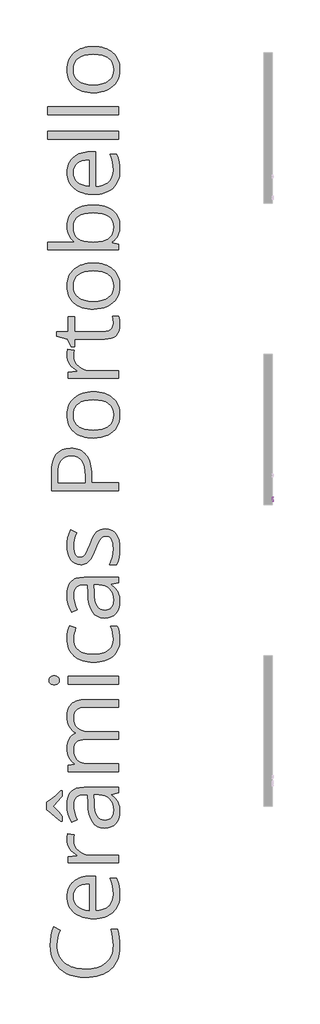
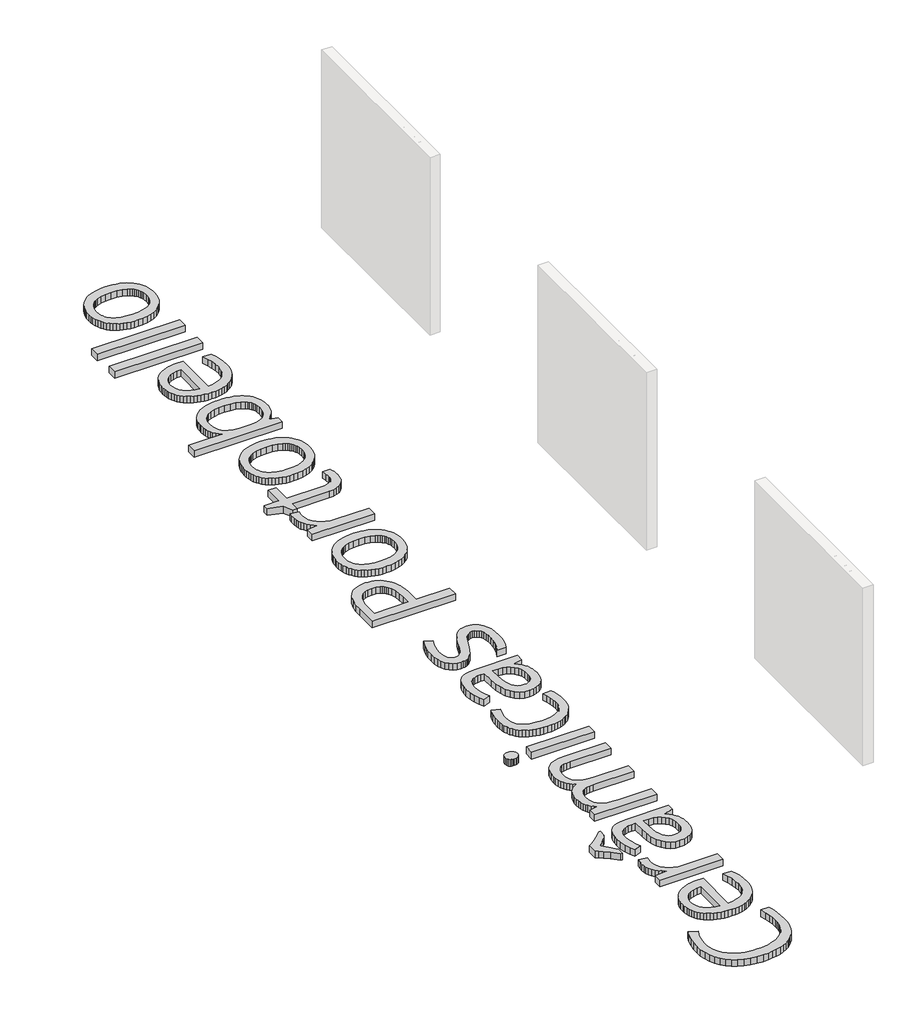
# One storey, part 2 of 8: 2 proxies.
"""IFC4 building model written with IfcOpenShell, lengths in millimetres."""

from ifc_helpers import new_model, si_unit, frame, origin, origin_with_axes, place, context, project, spatial, polyline, outline, extrude, element, save

model = new_model("IFC4")

# Units and contexts
model_context = context("Model", 3, world=origin())
ifc_project = project(units=[si_unit("LENGTHUNIT", "METRE", prefix="MILLI")], contexts=[model_context])

# Site, building, storey
site = spatial("IfcSite", under=ifc_project)
building = spatial("IfcBuilding", under=site)
storey = spatial("IfcBuildingStorey", under=building, Name="PORTOBELLO - SHOWROOM", Elevation=0.0)

# Proxies
placement = place(None, origin())
element("IfcBuildingElementProxy", 1, Name="10mm Arial", ObjectType="10mm Arial", at=placement, inside=storey, context=model_context, shape_type="SweptSolid", body=[
    extrude(outline(polyline([(-3694.2781927, 2584.5399034), (-3681.721154, 2581.3025418), (-3687.5152954, 2566.6700355), (-3696.608112, 2555.9799978), (-3708.5520141, 2549.4408954), (-3722.899412, 2547.2611945), (-3737.4644733, 2548.9105322), (-3749.0312964, 2553.858545), (-3757.8972524, 2561.9335548), (-3764.3597128, 2572.9638833), (-3769.6204253, 2599.8192689), (-3768.133569, 2614.4671037), (-3763.6729998, 2627.116113), (-3756.4717097, 2637.3646922), (-3746.7626907, 2644.8112369), (-3735.2479843, 2649.3453825), (-3722.6296318, 2650.8567644), (-3708.8616482, 2648.9008584), (-3697.4787661, 2643.0331406), (-3688.8366049, 2633.6153615), (-3683.2907838, 2621.0092718), (-3695.8478226, 2618.0171649), (-3706.1485184, 2633.455946), (-3723.1201412, 2638.2997256), (-3742.7650397, 2632.9286485), (-3753.8628132, 2618.5076743), (-3757.0633866, 2599.8437944), (-3753.274202, 2578.2123331), (-3741.4774527, 2564.3922328), (-3724.1502107, 2559.8182333), (-3713.6686396, 2561.3756004), (-3704.9345079, 2566.0477018), (-3698.3402231, 2573.7854864), (-3694.2781927, 2584.5399034)])), frame((14314.625413, 0.0, 0.0), z_axis=(1.0, 0.0, 0.0), x_axis=(0.0, 1.0, 0.0)), (0.0, 0.0, 1.0), 20.0),
    extrude(outline(polyline([(-3669.1641152, 2585.7171258), (-3666.4479198, 2603.5042202), (-3658.2993336, 2616.0060767), (-3648.2316297, 2622.1313119), (-3636.177363, 2624.173057), (-3622.9857278, 2621.6867878), (-3612.4489743, 2614.2279804), (-3605.5419898, 2602.3852458), (-3603.2396617, 2586.7471954), (-3607.3108891, 2564.4044955), (-3619.1689521, 2551.7616176), (-3636.177363, 2547.2611945), (-3649.5284137, 2549.7382666), (-3660.0529045, 2557.1694829), (-3666.8863125, 2569.2605378), (-3669.1641152, 2585.7171258)]), holes=[polyline([(-3656.6070764, 2585.7416512), (-3655.1539425, 2574.3771633), (-3650.7945409, 2566.2806937), (-3644.2339787, 2561.4338484), (-3636.177363, 2559.8182333), (-3628.1575355, 2561.4430455), (-3621.609236, 2566.3174819), (-3617.2498343, 2574.5212504), (-3615.7967004, 2586.1340587), (-3617.2590314, 2597.1674529), (-3621.6460242, 2605.1535578), (-3628.2035207, 2610.0004031), (-3636.177363, 2611.6160182), (-3644.2339787, 2610.0065345), (-3650.7945409, 2605.1780833), (-3655.1539425, 2597.1000078), (-3656.6070764, 2585.7416512)])]), frame((14314.625413, 0.0, 0.0), z_axis=(1.0, 0.0, 0.0), x_axis=(0.0, 1.0, 0.0)), (0.0, 0.0, 1.0), 20.0),
    extrude(outline(polyline([(-3585.9737334, 2548.8308244), (-3585.9737334, 2610.0463884), (-3596.9611423, 2610.0463884), (-3596.9611423, 2622.6034272), (-3585.9737334, 2622.6034272), (-3585.9737334, 2630.0346435), (-3584.6493582, 2640.5070176), (-3578.223686, 2647.9872848), (-3565.5685454, 2650.8567644), (-3554.1151526, 2649.4833383), (-3555.9545625, 2637.7111144), (-3563.1895751, 2638.2997256), (-3571.099038, 2636.215061), (-3573.4166946, 2628.4404881), (-3573.4166946, 2622.6034272), (-3559.290026, 2622.6034272), (-3559.290026, 2610.0463884), (-3573.4166946, 2610.0463884), (-3573.4166946, 2548.8308244), (-3585.9737334, 2548.8308244)])), frame((14314.625413, 0.0, 0.0), z_axis=(1.0, 0.0, 0.0), x_axis=(0.0, 1.0, 0.0)), (0.0, 0.0, 1.0), 20.0),
    extrude(outline(polyline([(-3545.1633574, 2548.8308244), (-3545.1633574, 2610.0463884), (-3556.1507663, 2610.0463884), (-3556.1507663, 2622.6034272), (-3545.1633574, 2622.6034272), (-3545.1633574, 2630.0346435), (-3543.8389822, 2640.5070176), (-3537.41331, 2647.9872848), (-3524.7581694, 2650.8567644), (-3513.3047766, 2649.4833383), (-3515.1441866, 2637.7111144), (-3522.3791991, 2638.2997256), (-3530.288662, 2636.215061), (-3532.6063186, 2628.4404881), (-3532.6063186, 2622.6034272), (-3518.47965, 2622.6034272), (-3518.47965, 2610.0463884), (-3532.6063186, 2610.0463884), (-3532.6063186, 2548.8308244), (-3545.1633574, 2548.8308244)])), frame((14314.625413, 0.0, 0.0), z_axis=(1.0, 0.0, 0.0), x_axis=(0.0, 1.0, 0.0)), (0.0, 0.0, 1.0), 20.0),
    extrude(outline(polyline([(-3455.8416089, 2570.8056422), (-3443.5298248, 2569.2360124), (-3447.9658685, 2559.9592547), (-3455.0445313, 2553.0246791), (-3464.6063975, 2548.7020657), (-3476.4920516, 2547.2611945), (-3491.2257255, 2549.7474637), (-3502.5626223, 2557.2062711), (-3509.7915035, 2569.1532389), (-3512.2011306, 2585.1039891), (-3509.7669781, 2601.5912339), (-3502.4645205, 2613.9214121), (-3491.2809078, 2621.6101458), (-3477.2032901, 2624.173057), (-3463.5640651, 2621.6162771), (-3452.665561, 2613.9459375), (-3445.5194533, 2601.6402848), (-3443.1374174, 2585.1775655), (-3443.2109938, 2581.7930512), (-3499.6440918, 2581.7930512), (-3497.4705224, 2572.3936662), (-3492.421342, 2565.483616), (-3485.1342128, 2561.234579), (-3476.2467969, 2559.8182333), (-3463.9350128, 2562.4424582), (-3455.8416089, 2570.8056422)]), holes=[polyline([(-3499.6440918, 2594.3500899), (-3455.6944561, 2594.3500899), (-3460.7221767, 2605.7299063), (-3468.0430284, 2610.1444902), (-3477.252341, 2611.6160182), (-3492.7156476, 2606.9193914), (-3497.580887, 2601.4287526), (-3499.6440918, 2594.3500899)])]), frame((14314.625413, 0.0, 0.0), z_axis=(1.0, 0.0, 0.0), x_axis=(0.0, 1.0, 0.0)), (0.0, 0.0, 1.0), 20.0),
    extrude(outline(polyline([(-3378.9297465, 2570.8056422), (-3366.6179624, 2569.2360124), (-3371.0540061, 2559.9592547), (-3378.1326688, 2553.0246791), (-3387.694535, 2548.7020657), (-3399.5801891, 2547.2611945), (-3414.313863, 2549.7474637), (-3425.6507599, 2557.2062711), (-3432.8796411, 2569.1532389), (-3435.2892681, 2585.1039891), (-3432.8551156, 2601.5912339), (-3425.552658, 2613.9214121), (-3414.3690453, 2621.6101458), (-3400.2914277, 2624.173057), (-3386.6522027, 2621.6162771), (-3375.7536986, 2613.9459375), (-3368.6075908, 2601.6402848), (-3366.2255549, 2585.1775655), (-3366.2991313, 2581.7930512), (-3422.7322294, 2581.7930512), (-3420.5586599, 2572.3936662), (-3415.5094795, 2565.483616), (-3408.2223503, 2561.234579), (-3399.3349345, 2559.8182333), (-3387.0231504, 2562.4424582), (-3378.9297465, 2570.8056422)]), holes=[polyline([(-3422.7322294, 2594.3500899), (-3378.7825937, 2594.3500899), (-3383.8103143, 2605.7299063), (-3391.131166, 2610.1444902), (-3400.3404786, 2611.6160182), (-3415.8037851, 2606.9193914), (-3420.6690245, 2601.4287526), (-3422.7322294, 2594.3500899)])]), frame((14314.625413, 0.0, 0.0), z_axis=(1.0, 0.0, 0.0), x_axis=(0.0, 1.0, 0.0)), (0.0, 0.0, 1.0), 20.0),
])
element("IfcBuildingElementProxy", 2, Name="1200mm OpenSans", ObjectType="1200mm OpenSans", at=placement, inside=storey, context=model_context, shape_type="SweptSolid", body=[
    extrude(outline(polyline([(10452.5693302, -11711.6578887), (10454.6903774, -11759.8419991), (10461.0535193, -11805.42339), (10471.6587558, -11848.4020616), (10486.5060869, -11888.7780137), (10505.5955126, -11926.5512465), (10528.9270329, -11961.7217599), (10556.5006478, -11994.2895538), (10588.3163572, -12024.2546284), (10623.8220693, -12051.1268611), (10662.465692, -12074.4161295), (10704.2472253, -12094.1224334), (10749.1666692, -12110.2457731), (10797.2240237, -12122.7861483), (10848.4192889, -12131.7435592), (10902.7524646, -12137.1180058), (10960.223551, -12138.9094879), (11019.1650048, -12137.1827921), (11074.664334, -12132.0027044), (11126.7215387, -12123.3692251), (11175.3366188, -12111.2823539), (11220.5095743, -12095.7420911), (11262.2404053, -12076.7484364), (11300.5291117, -12054.3013901), (11335.3756936, -12028.4009519), (11366.4308682, -11999.3062673), (11393.3453528, -11967.2764813), (11416.1191475, -11932.3115941), (11434.7522522, -11894.4116055), (11449.244667, -11853.5765156), (11459.5963919, -11809.8063244), (11465.8074268, -11763.1010319), (11467.8777718, -11713.4606381), (11465.0609759, -11648.3588517), (11456.6105883, -11578.8853981), (11442.5266089, -11505.0402773), (11422.8090377, -11426.8234893), (11539.6271965, -11426.8234893), (11558.7138054, -11492.8491847), (11572.3470974, -11566.1760151), (11580.5270727, -11646.8039804), (11583.2537311, -11734.7330806), (11580.715798, -11799.1813703), (11573.1019987, -11859.8438864), (11560.4123333, -11916.7206289), (11542.6468017, -11969.8115976), (11519.8054039, -12019.1167927), (11491.8881399, -12064.6362142), (11458.8950097, -12106.3698619), (11420.8260134, -12144.317736), (11378.0811359, -12178.1192866), (11331.0603623, -12207.4139638), (11279.7636925, -12232.2017675), (11224.1911266, -12252.4826979), (11164.3426645, -12268.2567548), (11100.2183063, -12279.5239383), (11031.8180519, -12286.2842484), (10959.1419014, -12288.5376851), (10868.3058678, -12284.1998195), (10783.2837009, -12271.1862225), (10704.0754008, -12249.4968942), (10630.6809673, -12219.1318346), (10564.238386, -12180.5755326), (10505.8856426, -12134.3124771), (10455.6227369, -12080.342668), (10413.449669, -12018.6661054), (10380.0875385, -11950.2404998), (10356.2574454, -11876.023562), (10341.9593895, -11796.0152918), (10337.1933709, -11710.2156892), (10341.1819538, -11618.726159), (10353.1477027, -11533.1857017), (10373.0906176, -11453.5943173), (10401.0106983, -11379.9520058), (10516.7472075, -11439.0821849), (10488.6693862, -11507.2261109), (10468.6137995, -11575.3700368), (10456.5804475, -11643.5139628), (10452.5693302, -11711.6578887)])), origin_with_axes(), (0.0, 0.0, 1.0), 100.0),
    extrude(outline(polyline([(11583.2537311, -10803.7933092), (11581.3270427, -10852.4168397), (11575.5469776, -10898.4151164), (11565.9135356, -10941.7881394), (11552.426717, -10982.5359086), (11535.0865215, -11020.658424), (11513.8929493, -11056.1556857), (11488.8460003, -11089.0276936), (11459.9456746, -11119.2744478), (11427.6257587, -11146.4001921), (11392.3200391, -11169.9091706), (11354.0285159, -11189.8013831), (11312.7511891, -11206.0768297), (11268.4880586, -11218.7355104), (11221.2391245, -11227.7774251), (11171.0043867, -11233.202574), (11117.7838454, -11235.010957), (11064.0365632, -11233.3321466), (11013.1229776, -11228.2957156), (10965.0430887, -11219.9016639), (10919.7968965, -11208.1499914), (10877.3844009, -11193.0406983), (10837.805602, -11174.5737845), (10801.0604997, -11152.7492501), (10767.1490941, -11127.5670949), (10736.6854467, -11099.5568767), (10710.2836189, -11069.248153), (10687.9436107, -11036.6409239), (10669.6654223, -11001.7351893), (10655.4490535, -10964.5309493), (10645.2945043, -10925.0282039), (10639.2017748, -10883.226953), (10637.170865, -10839.1271967), (10638.9679808, -10797.7822668), (10644.3593281, -10758.656972), (10653.3449069, -10721.7513123), (10665.9247173, -10687.0652879), (10682.0987593, -10654.5988985), (10701.8670328, -10624.3521444), (10725.2295378, -10596.3250254), (10752.1862744, -10570.5175415), (10782.0893795, -10547.3634794), (10814.29099, -10527.2966255), (10848.7911059, -10510.3169799), (10885.5897273, -10496.4245426), (10924.6868541, -10485.6193137), (10966.0824864, -10477.9012929), (11009.7766241, -10473.2704805), (11055.7692673, -10471.7268764), (11144.8250858, -10471.7268764), (11144.8250858, -11093.314857), (11219.368772, -11086.8136921), (11284.3578866, -11071.276246), (11339.7924295, -11046.7025187), (11363.9267366, -11031.0270497), (11385.6724008, -11013.0925103), (11404.9392846, -10993.0622748), (11421.6372506, -10971.0997173), (11447.3264291, -10921.3776364), (11462.7399361, -10863.9262676), (11467.8777718, -10798.7456109), (11464.0694638, -10726.117346), (11452.6445397, -10653.8946996), (11433.6029995, -10582.0776718), (11406.9448433, -10510.6662626), (11526.6474011, -10510.6662626), (11552.6520606, -10581.1537627), (11570.0936607, -10647.6752143), (11579.9637135, -10718.9739516), (11583.2537311, -10803.7933092)]), holes=[polyline([(10752.5468243, -10840.5693962), (10757.1438352, -10892.0942264), (10770.9348678, -10938.1432055), (10793.9199222, -10978.7163334), (10826.0989983, -11013.81361), (10866.3904466, -11042.849142), (10913.7126174, -11065.2370356), (10968.0655107, -11080.977291), (11029.4491265, -11090.0699081), (11029.4491265, -10618.1101247), (10966.3078301, -10621.7156234), (10911.0084933, -10632.5321196), (10863.5511163, -10650.5596132), (10823.9356991, -10675.7981043), (10792.7030664, -10707.7293024), (10770.394043, -10745.8349171), (10757.0086289, -10790.1149484), (10752.5468243, -10840.5693962)])]), origin_with_axes(), (0.0, 0.0, 1.0), 100.0),
    extrude(outline(polyline([(10637.170865, -9824.5398548), (10639.4243017, -9767.0321501), (10646.1846118, -9715.6537932), (10764.8055199, -9734.7629365), (10755.6114982, -9787.9440427), (10752.5468243, -9834.2747014), (10758.1916832, -9887.602281), (10775.1262601, -9936.8962089), (10803.3505548, -9982.1564851), (10842.8645674, -10023.3831096), (10890.8064333, -10057.6916834), (10944.3142878, -10082.1978076), (11003.3881311, -10096.9014821), (11068.0279629, -10101.8027069), (11560.1785392, -10101.8027069), (11560.1785392, -10238.0905588), (10660.2460569, -10238.0905588), (10660.2460569, -10125.5989985), (10821.7723998, -10110.095354), (10821.7723998, -10103.6054563), (10779.971149, -10076.9022313), (10743.2626651, -10047.6300885), (10711.6469481, -10015.7890279), (10685.1239981, -9981.3790494), (10664.1445024, -9944.8057717), (10649.1591483, -9906.4748134), (10640.1679358, -9866.3861744), (10637.170865, -9824.5398548)])), origin_with_axes(), (0.0, 0.0, 1.0), 100.0),
    extrude(outline(polyline([(11560.1785392, -8985.179751), (11428.5778357, -9012.5815414), (11428.5778357, -9019.4319889), (11470.1762772, -9053.4701504), (11504.4735839, -9087.4407087), (11531.4697556, -9121.3436639), (11551.1647924, -9155.179016), (11565.2037031, -9191.0875299), (11575.2314964, -9231.2099705), (11581.2481724, -9275.5463376), (11583.2537311, -9324.0966314), (11578.7806592, -9388.2069057), (11565.3614436, -9444.9709763), (11542.9960844, -9494.3888432), (11511.6845813, -9536.4605065), (11472.1255, -9570.0592477), (11425.0174057, -9594.0583486), (11370.3602984, -9608.4578092), (11308.1541782, -9613.2576294), (11241.6045587, -9606.3508459), (11183.4715253, -9585.6304954), (11133.755078, -9551.0965779), (11092.4552168, -9502.7490934), (11059.5719417, -9440.5880419), (11035.1052527, -9364.6134234), (11019.0551497, -9274.8252379), (11011.4216329, -9171.2234854), (11006.3739347, -9016.54759), (10952.2914538, -9016.54759), (10904.5974659, -9019.4319889), (10863.5511163, -9028.0851859), (10829.152405, -9042.5071808), (10801.401332, -9062.6979737), (10780.0274849, -9089.2434581), (10764.7604512, -9122.7295275), (10755.600231, -9163.156182), (10752.5468243, -9210.5234215), (10756.8734227, -9269.5183944), (10769.8532182, -9332.2090036), (10791.4862105, -9398.5952489), (10821.7723998, -9468.6771304), (10716.491837, -9511.2220154), (10683.3663174, -9440.6443778), (10658.2630326, -9363.7571174), (10642.4439069, -9283.5347707), (10637.170865, -9202.9518742), (10641.6777384, -9126.751912), (10655.1983586, -9061.120568), (10677.7327257, -9006.0578421), (10692.3800643, -8982.489711), (10709.2808395, -8961.5637344), (10728.6660288, -8943.1841412), (10750.7666093, -8927.2551605), (10775.582581, -8913.7767923), (10803.1139439, -8902.7490364), (10866.3228435, -8888.0453619), (10940.393308, -8883.144137), (11560.1785392, -8883.144137), (11560.1785392, -8985.179751)]), holes=[polyline([(11467.8777718, -9297.055391), (11463.5173718, -9235.8069813), (11450.4361717, -9181.4991567), (11428.6341716, -9134.1319172), (11398.1113714, -9093.7052627), (11359.7466115, -9061.368446), (11314.4187322, -9038.2707198), (11262.1277335, -9024.4120841), (11202.8736153, -9019.7925388), (11121.749894, -9019.7925388), (11127.5186919, -9158.6042398), (11132.8368026, -9235.4238971), (11143.0223365, -9300.7510272), (11158.0752936, -9354.58563), (11177.9956741, -9396.9277057), (11203.4369745, -9428.9490413), (11235.0526915, -9451.8214238), (11272.842825, -9465.5448534), (11316.8073751, -9470.1193299), (11351.5553691, -9467.2687324), (11381.8866272, -9458.7169402), (11407.8011493, -9444.463953), (11429.2989354, -9424.509771), (11446.1771763, -9399.4402876), (11458.2330627, -9369.8413965), (11465.4665945, -9335.7130976), (11467.8777718, -9297.055391)])]), origin_with_axes(), (0.0, 0.0, 1.0), 100.0),
    extrude(outline(polyline([(10525.4004044, -9494.9972711), (10425.8886396, -9406.6625523), (10356.663064, -9349.3351225), (10307.4480064, -9313.2801352), (10267.9677953, -9288.7627439), (10267.9677953, -9152.8354419), (10308.529656, -9128.1828443), (10359.547463, -9090.2800389), (10429.1335884, -9031.285066), (10525.4004044, -8943.3559658), (10544.8700976, -8943.3559658), (10544.8700976, -9040.7044314), (10517.1528261, -9079.0579242), (10481.233045, -9122.0084277), (10384.7859541, -9221.7004676), (10482.4949696, -9322.2037446), (10518.0992695, -9364.2754079), (10544.8700976, -9400.8937543), (10544.8700976, -9494.9972711), (10525.4004044, -9494.9972711)])), origin_with_axes(), (0.0, 0.0, 1.0), 100.0),
    extrude(outline(polyline([(11560.1785392, -7449.597843), (10969.5978477, -7449.597843), (10918.7265141, -7452.482242), (10874.6380249, -7461.1354389), (10837.3323803, -7475.5574339), (10806.8095801, -7495.7482267), (10783.0696244, -7522.0232987), (10766.1125132, -7554.6981309), (10755.9382465, -7593.7727234), (10752.5468243, -7639.2470761), (10757.1551023, -7698.8955457), (10770.9799365, -7750.2062994), (10794.0213268, -7793.1793374), (10826.2792733, -7827.8146595), (10868.1143257, -7854.4728157), (10919.887034, -7873.5143559), (10981.5973981, -7884.93928), (11053.2454181, -7888.747588), (11560.1785392, -7888.747588), (11560.1785392, -8025.3959898), (10969.5978477, -8025.3959898), (10918.7265141, -8028.2803888), (10874.6380249, -8036.9335857), (10837.3323803, -8051.3555806), (10806.8095801, -8071.5463735), (10783.0696244, -8097.8665142), (10766.1125132, -8130.6765526), (10755.9382465, -8169.9764888), (10752.5468243, -8215.7663226), (10757.3917132, -8275.8204108), (10771.9263799, -8327.2663707), (10796.1508245, -8370.1042025), (10811.8967135, -8388.2950703), (10830.0650469, -8404.333906), (10874.9985748, -8430.5188406), (10932.2809358, -8449.2223652), (11001.91213, -8460.44448), (11083.8921573, -8464.1851849), (11560.1785392, -8464.1851849), (11560.1785392, -8600.4730368), (10660.2460569, -8600.4730368), (10660.2460569, -8489.423676), (10775.6220161, -8467.4301338), (10775.6220161, -8460.9402361), (10744.7837348, -8439.4987858), (10717.5284179, -8414.1138213), (10693.8560653, -8384.7853426), (10673.7666771, -8351.5133497), (10657.7560093, -8315.2217516), (10646.319818, -8276.8344573), (10639.4581033, -8236.3514669), (10637.170865, -8193.7727804), (10639.5369735, -8143.1493248), (10646.6352992, -8097.1003457), (10658.4658419, -8055.6258432), (10675.0286016, -8018.7258171), (10696.3235785, -7986.4002676), (10722.3507724, -7958.6491946), (10753.1101835, -7935.4725981), (10788.6018115, -7916.8704781), (10788.6018115, -7910.3805804), (10755.4537576, -7887.9250836), (10725.9562712, -7860.9401791), (10700.1093522, -7829.4258668), (10677.9130006, -7793.3821467), (10660.0883163, -7753.7329279), (10647.3563989, -7711.4021194), (10639.7172485, -7666.3897212), (10637.170865, -7618.6957333), (10642.1058914, -7546.8899727), (10656.9109705, -7484.7063869), (10668.0147799, -7457.2229095), (10681.5861024, -7432.1449757), (10697.6249382, -7409.4725857), (10716.1312871, -7389.2057393), (10737.3530273, -7371.3331695), (10761.5380367, -7355.8436089), (10788.6863154, -7342.7370577), (10818.7978634, -7332.0135158), (10887.9107671, -7317.7154599), (10968.8767479, -7312.9494412), (11560.1785392, -7312.9494412), (11560.1785392, -7449.597843)])), origin_with_axes(), (0.0, 0.0, 1.0), 100.0),
    extrude(outline(polyline([(11560.1785392, -6899.0381873), (11560.1785392, -7035.3260392), (10660.2460569, -7035.3260392), (10660.2460569, -6899.0381873), (11560.1785392, -6899.0381873)])), origin_with_axes(), (0.0, 0.0, 1.0), 100.0),
    extrude(outline(polyline([(10406.0583966, -7046.8636352), (10383.8507778, -7045.4214357), (10364.8205049, -7041.0948372), (10348.9675777, -7033.8838397), (10336.2919962, -7023.7884433), (10319.6616333, -6997.8288525), (10314.118179, -6966.1004637), (10319.7517708, -6935.5438619), (10336.6525461, -6909.4941336), (10349.4407994, -6899.0832561), (10365.2711922, -6891.6469149), (10384.1437246, -6887.1851103), (10406.0583966, -6885.697842), (10427.9956029, -6887.1851103), (10446.9357384, -6891.6469149), (10462.8788031, -6899.0832561), (10475.8247969, -6909.4941336), (10492.9959846, -6935.5438619), (10498.7197139, -6966.1004637), (10492.9959846, -6997.8288525), (10485.8413231, -7011.5297476), (10475.8247969, -7023.7884433), (10462.8788031, -7033.8838397), (10446.9357384, -7041.0948372), (10427.9956029, -7045.4214357), (10406.0583966, -7046.8636352)])), origin_with_axes(), (0.0, 0.0, 1.0), 100.0),
    extrude(outline(polyline([(11583.2537311, -6229.1365238), (11581.3467603, -6277.0502217), (11575.6258478, -6322.1809253), (11566.0909938, -6364.5286346), (11552.7421981, -6404.0933495), (11535.5794608, -6440.8750701), (11514.6027819, -6474.8737964), (11489.8121613, -6506.0895284), (11461.2075992, -6534.522266), (11429.1158437, -6559.8734289), (11393.8636432, -6581.8444368), (11355.4509978, -6600.4352896), (11313.8779074, -6615.6459874), (11269.144372, -6627.4765301), (11221.2503917, -6635.9269177), (11170.1959663, -6640.9971503), (11115.981096, -6642.6872278), (11060.3690949, -6640.9717991), (11008.0076763, -6635.825513), (10958.8968401, -6627.2483696), (10913.0365864, -6615.2403687), (10870.4269151, -6599.8015105), (10831.0678262, -6580.9317949), (10794.9593199, -6558.6312219), (10762.1013959, -6532.8997916), (10732.8208027, -6503.996649), (10707.4442886, -6472.1809396), (10685.9718536, -6437.4526631), (10668.4034977, -6399.8118198), (10654.7392209, -6359.2584095), (10644.9790232, -6315.7924322), (10639.1229045, -6269.4138881), (10637.170865, -6220.122777), (10640.5059513, -6154.5477688), (10650.5112103, -6089.0628982), (10665.0233427, -6030.6988876), (10681.8790492, -5986.4864594), (10794.7311594, -6028.6707945), (10778.190934, -6076.4887214), (10764.625245, -6128.3628343), (10755.5664295, -6179.1552977), (10752.5468243, -6223.7282757), (10758.1860496, -6288.7117567), (10775.1037257, -6345.0307735), (10803.2998525, -6392.6853262), (10842.7744299, -6431.6754148), (10893.5274581, -6462.0010392), (10955.558937, -6483.6621996), (11028.8688666, -6496.6588958), (11113.4572469, -6500.9911278), (11194.1077466, -6496.765934), (11264.798056, -6484.0903525), (11325.5281752, -6462.9643834), (11376.2981041, -6433.3880267), (11397.7620887, -6415.4703881), (11416.3642087, -6395.5190229), (11432.1044641, -6373.533931), (11444.9828549, -6349.5151125), (11454.999381, -6323.4625674), (11462.1540426, -6295.3762957), (11467.8777718, -6233.1025724), (11464.8356323, -6175.797677), (11455.7092136, -6117.8167506), (11440.4985158, -6059.1597931), (11419.203539, -5999.8268047), (11537.8244471, -5999.8268047), (11557.6997588, -6048.3658313), (11571.8964101, -6102.7637934), (11580.4144008, -6163.0206909), (11583.2537311, -6229.1365238)])), origin_with_axes(), (0.0, 0.0, 1.0), 100.0),
    extrude(outline(polyline([(11560.1785392, -5223.9234786), (11428.5778357, -5251.3252689), (11428.5778357, -5258.1757165), (11470.1762772, -5292.2138779), (11504.4735839, -5326.1844362), (11531.4697556, -5360.0873914), (11551.1647924, -5393.9227436), (11565.2037031, -5429.8312574), (11575.2314964, -5469.953698), (11581.2481724, -5514.2900651), (11583.2537311, -5562.8403589), (11578.7806592, -5626.9506332), (11565.3614436, -5683.7147038), (11542.9960844, -5733.1325707), (11511.6845813, -5775.204234), (11472.1255, -5808.8029753), (11425.0174057, -5832.8020762), (11370.3602984, -5847.2015367), (11308.1541782, -5852.0013569), (11241.6045587, -5845.0945734), (11183.4715253, -5824.3742229), (11133.755078, -5789.8403054), (11092.4552168, -5741.4928209), (11059.5719417, -5679.3317694), (11035.1052527, -5603.3571509), (11019.0551497, -5513.5689654), (11011.4216329, -5409.9672129), (11006.3739347, -5255.2913175), (10952.2914538, -5255.2913175), (10904.5974659, -5258.1757165), (10863.5511163, -5266.8289134), (10829.152405, -5281.2509083), (10801.401332, -5301.4417012), (10780.0274849, -5327.9871856), (10764.7604512, -5361.473255), (10755.600231, -5401.8999095), (10752.5468243, -5449.267149), (10756.8734227, -5508.262122), (10769.8532182, -5570.9527311), (10791.4862105, -5637.3389764), (10821.7723998, -5707.4208579), (10716.491837, -5749.9657429), (10683.3663174, -5679.3881053), (10658.2630326, -5602.5008449), (10642.4439069, -5522.2784983), (10637.170865, -5441.6956017), (10641.6777384, -5365.4956395), (10655.1983586, -5299.8642955), (10677.7327257, -5244.8015696), (10692.3800643, -5221.2334385), (10709.2808395, -5200.3074619), (10728.6660288, -5181.9278688), (10750.7666093, -5165.9988881), (10775.582581, -5152.5205198), (10803.1139439, -5141.4927639), (10866.3228435, -5126.7890894), (10940.393308, -5121.8878646), (11560.1785392, -5121.8878646), (11560.1785392, -5223.9234786)]), holes=[polyline([(11467.8777718, -5535.7991185), (11463.5173718, -5474.5507088), (11450.4361717, -5420.2428843), (11428.6341716, -5372.8756447), (11398.1113714, -5332.4489903), (11359.7466115, -5300.1121735), (11314.4187322, -5277.0144473), (11262.1277335, -5263.1558116), (11202.8736153, -5258.5362663), (11121.749894, -5258.5362663), (11127.5186919, -5397.3479673), (11132.8368026, -5474.1676246), (11143.0223365, -5539.4947547), (11158.0752936, -5593.3293576), (11177.9956741, -5635.6714332), (11203.4369745, -5667.6927688), (11235.0526915, -5690.5651514), (11272.842825, -5704.2885809), (11316.8073751, -5708.8630574), (11351.5553691, -5706.01246), (11381.8866272, -5697.4606677), (11407.8011493, -5683.2076805), (11429.2989354, -5663.2534985), (11446.1771763, -5638.1840152), (11458.2330627, -5608.585124), (11465.4665945, -5574.4568251), (11467.8777718, -5535.7991185)])]), origin_with_axes(), (0.0, 0.0, 1.0), 100.0),
    extrude(outline(polyline([(11317.5284749, -4254.4048707), (11377.6839677, -4260.2976077), (11405.0153381, -4267.663529), (11430.5157912, -4277.9758187), (11454.185327, -4291.2344769), (11476.0239455, -4307.4395036), (11496.0316466, -4326.5908988), (11514.2084304, -4348.6886625), (11544.4157495, -4400.5740426), (11565.9924059, -4461.9463912), (11578.9383998, -4532.8057084), (11583.2537311, -4613.1519941), (11579.6933011, -4698.174161), (11569.0120111, -4773.3262751), (11551.2098611, -4838.6083364), (11526.2868512, -4894.020345), (11398.6521962, -4894.020345), (11427.3609799, -4826.3271064), (11449.3094534, -4753.7664445), (11463.2356922, -4680.2142705), (11467.8777718, -4609.5464954), (11465.7370069, -4558.7652993), (11459.3147123, -4514.2261228), (11448.610888, -4475.928966), (11433.6255339, -4443.8738289), (11414.2459782, -4418.5564675), (11390.3595492, -4400.4726379), (11361.9662467, -4389.6223402), (11329.0660708, -4386.0055743), (11303.354358, -4388.8787061), (11279.5806008, -4397.4981015), (11257.7447991, -4411.8637605), (11237.846953, -4431.9756831), (11218.0617787, -4460.4027871), (11196.5639926, -4499.7139904), (11148.4305845, -4610.9886949), (11103.9026753, -4719.2437942), (11065.5041138, -4790.9030814), (11027.7815834, -4837.4590837), (11007.128836, -4855.6330507), (10985.2817671, -4870.4043283), (10961.7220864, -4881.8405196), (10935.9315033, -4890.0092277), (10907.9100179, -4894.9104525), (10877.6576301, -4896.5441941), (10824.8821425, -4890.9106023), (10777.9655903, -4874.0098271), (10736.9079735, -4845.8418682), (10701.7092922, -4806.4067259), (10673.4737303, -4757.1465996), (10653.3054718, -4699.5036886), (10641.2045167, -4633.4779932), (10637.170865, -4559.0695132), (10640.9115699, -4486.4412482), (10652.1336847, -4414.5791517), (10670.8372094, -4343.4832237), (10697.0221439, -4273.1534641), (10808.4320546, -4322.1882468), (10783.9822663, -4388.8899733), (10766.5181318, -4452.3467509), (10756.0396512, -4512.5585796), (10752.5468243, -4569.5254595), (10754.4735127, -4615.3828965), (10760.2535778, -4655.2461918), (10769.8870197, -4689.1153454), (10783.3738384, -4716.9903575), (10800.2633465, -4738.758556), (10820.1048567, -4754.3072693), (10842.8983689, -4763.6364973), (10868.6438833, -4766.7462399), (10902.6707775, -4762.1041603), (10931.1992862, -4748.1779215), (10956.3476398, -4723.8858738), (10980.2340689, -4688.1463677), (11008.7625776, -4627.6641265), (11047.8371701, -4529.1438738), (11077.4473284, -4455.0846765), (11107.1476241, -4394.0728777), (11136.9380574, -4346.1084774), (11166.8186281, -4311.1914757), (11198.6822231, -4286.347336), (11234.4217292, -4268.601522), (11274.0371465, -4257.9540336), (11317.5284749, -4254.4048707)])), origin_with_axes(), (0.0, 0.0, 1.0), 100.0),
    extrude(outline(polyline([(10703.8725915, -2809.3209808), (10747.2935, -2811.2702035), (10788.139857, -2817.1178718), (10826.4116627, -2826.8639855), (10862.1089169, -2840.5085448), (10895.2316196, -2858.0515495), (10925.7797709, -2879.4929998), (10953.7533708, -2904.8328955), (10979.1524193, -2934.0712368), (11001.7572062, -2966.9432447), (11021.3480216, -3003.1841405), (11037.9248653, -3042.7939242), (11051.4877375, -3085.7725957), (11062.0366381, -3132.1201551), (11069.5715671, -3181.8366024), (11074.0925245, -3234.9219376), (11075.5995103, -3291.3761606), (11075.5995103, -3433.0722606), (11560.1785392, -3433.0722606), (11560.1785392, -3572.6050614), (10360.2685627, -3572.6050614), (10360.2685627, -3260.3688716), (10365.6373757, -3154.6545222), (10381.7438145, -3063.0354194), (10408.5878793, -2985.5115631), (10446.1695699, -2922.0829535), (10494.4888864, -2872.7495904), (10553.5458289, -2837.511474), (10623.3403972, -2816.3686041), (10703.8725915, -2809.3209808)]), holes=[polyline([(10960.223551, -3433.0722606), (10960.223551, -3306.8798052), (10956.5053804, -3220.122492), (10945.3508687, -3146.2548369), (10926.7600159, -3085.2768396), (10900.732822, -3037.1885004), (10884.7334214, -3017.6681049), (10866.4805841, -3000.7504288), (10845.97431, -2986.4354722), (10823.2145993, -2974.7232349), (10770.9348678, -2959.1069185), (10709.6413894, -2953.9014798), (10654.2857168, -2958.8027046), (10606.4790571, -2973.5063791), (10566.2214103, -2998.0125032), (10533.5127766, -3032.3210771), (10508.1954152, -3076.9729254), (10490.1115856, -3132.508873), (10479.2612879, -3198.9289198), (10475.644522, -3276.233066), (10475.644522, -3433.0722606), (10960.223551, -3433.0722606)])]), origin_with_axes(), (0.0, 0.0, 1.0), 100.0),
    extrude(outline(polyline([(11109.4911983, -1801.9446363), (11163.7567709, -1803.6769658), (11214.9633033, -1808.8739542), (11263.1107952, -1817.5356015), (11308.1992469, -1829.6619078), (11350.2286582, -1845.252873), (11389.1990293, -1864.3084971), (11425.1103599, -1886.8287802), (11457.9626503, -1912.8137222), (11487.3277474, -1941.8464373), (11512.7774981, -1973.5100398), (11534.3119027, -2007.8045297), (11551.9309609, -2044.7299069), (11565.6346728, -2084.2861714), (11575.4230385, -2126.4733234), (11581.2960579, -2171.2913626), (11583.2537311, -2218.7402892), (11579.6594995, -2277.4310482), (11568.8768049, -2332.7191177), (11550.9056472, -2384.6044979), (11525.7460264, -2433.0871886), (11493.8711642, -2477.1982121), (11455.7542823, -2515.9685906), (11411.3953808, -2549.3983241), (11360.7944596, -2577.4874126), (11304.7965575, -2599.7288329), (11244.2467132, -2615.6155616), (11179.1449268, -2625.1475989), (11109.4911983, -2628.3249447), (11055.2368928, -2626.6066992), (11004.0641621, -2621.4519627), (10955.973006, -2612.8607353), (10910.9634246, -2600.8330169), (10869.0354179, -2585.3688075), (10830.1889859, -2566.4681071), (10794.4241286, -2544.1309158), (10761.740846, -2518.3572335), (10732.5447567, -2489.5301444), (10707.2414793, -2458.0327329), (10685.8310138, -2423.8649989), (10668.3133603, -2387.0269423), (10654.6885186, -2347.5185633), (10644.9564888, -2305.3398618), (10639.1172709, -2260.4908378), (10637.170865, -2212.9714913), (10639.1623397, -2167.0380008), (10645.1367637, -2123.5213213), (10655.0941372, -2082.4214526), (10669.03446, -2043.7383947), (10686.9577322, -2007.4721478), (10708.8639538, -1973.6227117), (10734.7531247, -1942.1900864), (10764.625245, -1913.1742721), (10797.8944212, -1887.1048262), (10833.9747596, -1864.5113064), (10872.8662603, -1845.3937128), (10914.5689233, -1829.7520453), (10959.0827486, -1817.5863039), (11006.4077362, -1808.8964886), (11056.5438861, -1803.6825994), (11109.4911983, -1801.9446363)]), holes=[polyline([(11108.4095487, -2486.6288447), (11190.9754695, -2482.3247806), (11263.0854441, -2469.4125882), (11324.7394723, -2447.8922677), (11351.6455066, -2433.9040594), (11375.9375543, -2417.763819), (11397.4860427, -2399.5391496), (11416.1613994, -2379.2976544), (11431.9636243, -2357.0393334), (11444.8927174, -2332.7641865), (11454.9486787, -2306.4722137), (11462.1315082, -2278.1634151), (11467.8777718, -2215.4953404), (11462.1540426, -2152.8047312), (11454.999381, -2124.4677647), (11444.9828549, -2098.1363568), (11432.1044641, -2073.8105076), (11416.3642087, -2051.490217), (11397.7620887, -2031.1754851), (11376.2981041, -2012.8663119), (11352.0792931, -1996.6415676), (11325.212694, -1982.5801226), (11263.5361314, -1960.9471302), (11191.2684163, -1947.9673348), (11108.4095487, -1943.6407363), (11026.3957198, -1947.9673348), (10954.8603716, -1960.9471302), (10893.8035041, -1982.5801226), (10867.2045006, -1996.6415676), (10843.2251173, -2012.8663119), (10821.9723923, -2031.2036531), (10803.5533641, -2051.6028888), (10787.9680325, -2074.0640192), (10775.2163975, -2098.5870441), (10765.2984592, -2125.1719637), (10758.2142176, -2153.8187778), (10752.5468243, -2217.2980897), (10758.1353473, -2279.9098286), (10765.1210011, -2308.1482073), (10774.9009164, -2334.3415922), (10787.4750932, -2358.4899833), (10802.8435315, -2380.5933805), (10821.0062314, -2400.651784), (10841.9631927, -2418.6651937), (10865.6862476, -2434.5941744), (10892.1472281, -2448.399291), (10953.2829659, -2469.6379319), (11025.3704061, -2482.3811165), (11108.4095487, -2486.6288447)])]), origin_with_axes(), (0.0, 0.0, 1.0), 100.0),
    extrude(outline(polyline([(10637.170865, -1148.267717), (10639.4243017, -1090.7600123), (10646.1846118, -1039.3816555), (10764.8055199, -1058.4907987), (10755.6114982, -1111.671905), (10752.5468243, -1158.0025636), (10758.1916832, -1211.3301432), (10775.1262601, -1260.6240711), (10803.3505548, -1305.8843473), (10842.8645674, -1347.1109719), (10890.8064333, -1381.4195457), (10944.3142878, -1405.9256699), (11003.3881311, -1420.6293444), (11068.0279629, -1425.5305692), (11560.1785392, -1425.5305692), (11560.1785392, -1561.8184211), (10660.2460569, -1561.8184211), (10660.2460569, -1449.3268608), (10821.7723998, -1433.8232163), (10821.7723998, -1427.3333185), (10779.971149, -1400.6300936), (10743.2626651, -1371.3579508), (10711.6469481, -1339.5168902), (10685.1239981, -1305.1069117), (10664.1445024, -1268.533634), (10649.1591483, -1230.2026756), (10640.1679358, -1190.1140366), (10637.170865, -1148.267717)])), origin_with_axes(), (0.0, 0.0, 1.0), 100.0),
    extrude(outline(polyline([(11467.8777718, -575.7145191), (11462.4695237, -505.0467441), (11451.2924777, -450.9642632), (11558.01524, -450.9642632), (11567.9303615, -478.6364659), (11576.0427336, -516.9448899), (11581.4509817, -558.3179878), (11583.2537311, -595.1842123), (11578.9722013, -657.0410498), (11566.1276121, -710.650309), (11544.7199634, -756.0119899), (11514.7492553, -793.1260924), (11476.2154876, -821.9926166), (11429.1186605, -842.6115624), (11373.4587739, -854.9829299), (11309.2358278, -859.1067191), (10775.6220161, -859.1067191), (10775.6220161, -989.625773), (10708.1991899, -989.625773), (10649.7901105, -859.8278188), (10452.5693302, -801.7792893), (10452.5693302, -722.4583173), (10660.2460569, -722.4583173), (10660.2460569, -457.4541609), (10775.6220161, -457.4541609), (10775.6220161, -722.4583173), (11300.9431807, -722.4583173), (11338.9699251, -720.0133385), (11372.2869868, -712.678402), (11400.8943658, -700.4535079), (11424.792062, -683.3386561), (11443.64206, -661.9422746), (11457.1063444, -636.8727913), (11465.1849149, -608.1302061), (11467.8777718, -575.7145191)])), origin_with_axes(), (0.0, 0.0, 1.0), 100.0),
    extrude(outline(polyline([(11109.4911983, 505.5745492), (11163.7567709, 503.8422198), (11214.9633033, 498.6452314), (11263.1107952, 489.983584), (11308.1992469, 477.8572778), (11350.2286582, 462.2663126), (11389.1990293, 443.2106884), (11425.1103599, 420.6904054), (11457.9626503, 394.7054634), (11487.3277474, 365.6727482), (11512.7774981, 334.0091457), (11534.3119027, 299.7146559), (11551.9309609, 262.7892787), (11565.6346728, 223.2330141), (11575.4230385, 181.0458622), (11581.2960579, 136.227823), (11583.2537311, 88.7788963), (11579.6594995, 30.0881374), (11568.8768049, -25.1999322), (11550.9056472, -77.0853123), (11525.7460264, -125.568003), (11493.8711642, -169.6790265), (11455.7542823, -208.449405), (11411.3953808, -241.8791385), (11360.7944596, -269.968227), (11304.7965575, -292.2096473), (11244.2467132, -308.0963761), (11179.1449268, -317.6284133), (11109.4911983, -320.8057591), (11055.2368928, -319.0875136), (11004.0641621, -313.9327771), (10955.973006, -305.3415497), (10910.9634246, -293.3138313), (10869.0354179, -277.8496219), (10830.1889859, -258.9489215), (10794.4241286, -236.6117302), (10761.740846, -210.8380479), (10732.5447567, -182.0109589), (10707.2414793, -150.5135473), (10685.8310138, -116.3458133), (10668.3133603, -79.5077568), (10654.6885186, -39.9993777), (10644.9564888, 2.1793238), (10639.1172709, 47.0283478), (10637.170865, 94.5476943), (10639.1623397, 140.4811847), (10645.1367637, 183.9978643), (10655.0941372, 225.097733), (10669.03446, 263.7807908), (10686.9577322, 300.0470378), (10708.8639538, 333.8964739), (10734.7531247, 365.3290991), (10764.625245, 394.3449135), (10797.8944212, 420.4143594), (10833.9747596, 443.0078791), (10872.8662603, 462.1254728), (10914.5689233, 477.7671403), (10959.0827486, 489.9328817), (11006.4077362, 498.622697), (11056.5438861, 503.8365862), (11109.4911983, 505.5745492)]), holes=[polyline([(11108.4095487, -179.1096591), (11190.9754695, -174.805595), (11263.0854441, -161.8934027), (11324.7394723, -140.3730821), (11351.6455066, -126.3848738), (11375.9375543, -110.2446334), (11397.4860427, -92.0199641), (11416.1613994, -71.7784689), (11431.9636243, -49.5201478), (11444.8927174, -25.2450009), (11454.9486787, 1.0469718), (11462.1315082, 29.3557704), (11467.8777718, 92.0238452), (11462.1540426, 154.7144543), (11454.999381, 183.0514209), (11444.9828549, 209.3828288), (11432.1044641, 233.708678), (11416.3642087, 256.0289686), (11397.7620887, 276.3437005), (11376.2981041, 294.6528737), (11352.0792931, 310.877618), (11325.212694, 324.939063), (11263.5361314, 346.5720554), (11191.2684163, 359.5518508), (11108.4095487, 363.8784493), (11026.3957198, 359.5518508), (10954.8603716, 346.5720554), (10893.8035041, 324.939063), (10867.2045006, 310.877618), (10843.2251173, 294.6528737), (10821.9723923, 276.3155325), (10803.5533641, 255.9162967), (10787.9680325, 233.4551664), (10775.2163975, 208.9321414), (10765.2984592, 182.3472219), (10758.2142176, 153.7004078), (10752.5468243, 90.2210958), (10758.1353473, 27.609357), (10765.1210011, -0.6290217), (10774.9009164, -26.8224066), (10787.4750932, -50.9707977), (10802.8435315, -73.074195), (10821.0062314, -93.1325984), (10841.9631927, -111.1460081), (10865.6862476, -127.0749888), (10892.1472281, -140.8801054), (10953.2829659, -162.1187463), (11025.3704061, -174.8619309), (11108.4095487, -179.1096591)])]), origin_with_axes(), (0.0, 0.0, 1.0), 100.0),
    extrude(outline(polyline([(10637.170865, 1166.8230159), (10639.0947366, 1210.3678634), (10644.8663513, 1251.4057626), (10654.4857093, 1289.9367134), (10667.9528104, 1325.9607159), (10685.2676547, 1359.4777701), (10706.4302421, 1390.487876), (10731.4405727, 1418.9910335), (10760.2986465, 1444.9872427), (10792.6720816, 1468.1835568), (10828.228496, 1488.287029), (10866.9678897, 1505.2976593), (10908.8902628, 1519.2154477), (10953.9956153, 1530.0403943), (11002.2839471, 1537.772499), (11053.7552582, 1542.4117618), (11108.4095487, 1543.9581827), (11163.1736942, 1542.3976778), (11214.7942955, 1537.7161631), (11263.2713526, 1529.9136385), (11308.6048655, 1518.9901041), (11350.7948342, 1504.9455598), (11389.8412587, 1487.7800057), (11425.744139, 1467.4934418), (11458.5034751, 1444.085868), (11487.7418164, 1417.9122007), (11513.0817121, 1389.3273561), (11534.5231623, 1358.3313342), (11552.0661671, 1324.9241351), (11565.7107263, 1289.1057586), (11575.4568401, 1250.8762049), (11581.3045083, 1210.235474), (11583.2537311, 1167.1835657), (11581.1918365, 1123.793642), (11575.0061527, 1082.3191394), (11564.6966798, 1042.7600581), (11550.2634177, 1005.1163979), (11531.5486259, 969.9289838), (11508.3945638, 937.7386405), (11480.8012313, 908.545368), (11448.7686285, 882.3491663), (11448.7686285, 872.2537698), (11560.1785392, 843.40978), (11560.1785392, 745.7007645), (10291.0429872, 745.7007645), (10291.0429872, 881.9886164), (10592.1021309, 881.9886164), (10688.188672, 880.366142), (10773.8192668, 875.4987187), (10773.8192668, 881.9886164), (10741.7922976, 907.4975199), (10714.035591, 935.8908224), (10690.5491469, 967.1685238), (10671.3329654, 1001.3306243), (10656.3870465, 1038.3771237), (10645.7113901, 1078.3080221), (10639.3059963, 1121.1233195), (10637.170865, 1166.8230159)]), holes=[polyline([(10752.5468243, 1147.7138726), (10757.6395912, 1081.9923911), (10772.9178921, 1026.1634968), (10784.3766177, 1001.9587697), (10798.3817268, 980.2271895), (10814.9332194, 960.9687561), (10834.0310955, 944.1834694), (10856.1429432, 929.6065508), (10881.7363506, 916.9732212), (10943.3678444, 897.5373296), (11018.9255771, 885.8757947), (11108.4095487, 881.9886164), (11198.1526654, 885.9884665), (11274.1272839, 897.988017), (11336.3334042, 917.9872677), (11362.2732774, 930.9867807), (11384.7710261, 945.9862188), (11404.2491696, 963.1883912), (11421.1302274, 982.7961074), (11435.4141993, 1004.8093672), (11447.1010854, 1029.2281707), (11462.6836002, 1085.2824087), (11467.8777718, 1150.9588215), (11462.0526379, 1210.5284207), (11454.7712206, 1237.2626304), (11444.5772363, 1261.9631135), (11431.470685, 1284.62987), (11415.4515669, 1305.2628998), (11396.5198818, 1323.862203), (11374.6756297, 1340.4277796), (11322.9930589, 1367.6380278), (11261.1474885, 1387.0739194), (11189.1389186, 1398.7354543), (11106.9673492, 1402.6226326), (11023.2409084, 1398.7354543), (10950.894323, 1387.0739194), (10889.927593, 1367.6380278), (10840.3407183, 1340.4277796), (10819.7640244, 1323.8115007), (10801.9308897, 1305.0600905), (10786.8413141, 1284.173549), (10774.4952978, 1261.1518763), (10764.8928406, 1235.9950723), (10758.0339427, 1208.703137), (10752.5468243, 1147.7138726)])]), origin_with_axes(), (0.0, 0.0, 1.0), 100.0),
    extrude(outline(polyline([(11583.2537311, 2164.4645137), (11581.3270427, 2115.8409832), (11575.5469776, 2069.8427065), (11565.9135356, 2026.4696835), (11552.426717, 1985.7219143), (11535.0865215, 1947.5993989), (11513.8929493, 1912.1021372), (11488.8460003, 1879.2301293), (11459.9456746, 1848.9833751), (11427.6257587, 1821.8576308), (11392.3200391, 1798.3486523), (11354.0285159, 1778.4564398), (11312.7511891, 1762.1809932), (11268.4880586, 1749.5223125), (11221.2391245, 1740.4803978), (11171.0043867, 1735.0552489), (11117.7838454, 1733.2468659), (11064.0365632, 1734.9256763), (11013.1229776, 1739.9621073), (10965.0430887, 1748.356159), (10919.7968965, 1760.1078315), (10877.3844009, 1775.2171246), (10837.805602, 1793.6840384), (10801.0604997, 1815.5085728), (10767.1490941, 1840.690728), (10736.6854467, 1868.7009463), (10710.2836189, 1899.0096699), (10687.9436107, 1931.6168991), (10669.6654223, 1966.5226336), (10655.4490535, 2003.7268736), (10645.2945043, 2043.229619), (10639.2017748, 2085.0308699), (10637.170865, 2129.1306262), (10638.9679808, 2170.4755562), (10644.3593281, 2209.6008509), (10653.3449069, 2246.5065106), (10665.9247173, 2281.192535), (10682.0987593, 2313.6589244), (10701.8670328, 2343.9056785), (10725.2295378, 2371.9327975), (10752.1862744, 2397.7402814), (10782.0893795, 2420.8943435), (10814.29099, 2440.9611974), (10848.7911059, 2457.940843), (10885.5897273, 2471.8332803), (10924.6868541, 2482.6385093), (10966.0824864, 2490.35653), (11009.7766241, 2494.9873424), (11055.7692673, 2496.5309465), (11144.8250858, 2496.5309465), (11144.8250858, 1874.9429659), (11219.368772, 1881.4441308), (11284.3578866, 1896.9815769), (11339.7924295, 1921.5553042), (11363.9267366, 1937.2307732), (11385.6724008, 1955.1653126), (11404.9392846, 1975.1955481), (11421.6372506, 1997.1581056), (11447.3264291, 2046.8801865), (11462.7399361, 2104.3315553), (11467.8777718, 2169.512212), (11464.0694638, 2242.140477), (11452.6445397, 2314.3631233), (11433.6029995, 2386.1801511), (11406.9448433, 2457.5915603), (11526.6474011, 2457.5915603), (11552.6520606, 2387.1040602), (11570.0936607, 2320.5826086), (11579.9637135, 2249.2838713), (11583.2537311, 2164.4645137)]), holes=[polyline([(10752.5468243, 2127.6884267), (10757.1438352, 2076.1635965), (10770.9348678, 2030.1146174), (10793.9199222, 1989.5414895), (10826.0989983, 1954.4442129), (10866.3904466, 1925.4086809), (10913.7126174, 1903.0207873), (10968.0655107, 1887.2805319), (11029.4491265, 1878.1879148), (11029.4491265, 2350.1476982), (10966.3078301, 2346.5421995), (10911.0084933, 2335.7257033), (10863.5511163, 2317.6982097), (10823.9356991, 2292.4597186), (10792.7030664, 2260.5285205), (10770.394043, 2222.4229058), (10757.0086289, 2178.1428745), (10752.5468243, 2127.6884267)])]), origin_with_axes(), (0.0, 0.0, 1.0), 100.0),
    extrude(outline(polyline([(11560.1785392, 2861.7679676), (11560.1785392, 2725.4801157), (10291.0429872, 2725.4801157), (10291.0429872, 2861.7679676), (11560.1785392, 2861.7679676)])), origin_with_axes(), (0.0, 0.0, 1.0), 100.0),
    extrude(outline(polyline([(11560.1785392, 3300.1966129), (11560.1785392, 3163.908761), (10291.0429872, 3163.908761), (10291.0429872, 3300.1966129), (11560.1785392, 3300.1966129)])), origin_with_axes(), (0.0, 0.0, 1.0), 100.0),
    extrude(outline(polyline([(11109.4911983, 4382.206781), (11163.7567709, 4380.4744515), (11214.9633033, 4375.2774631), (11263.1107952, 4366.6158158), (11308.1992469, 4354.4895095), (11350.2286582, 4338.8985443), (11389.1990293, 4319.8429202), (11425.1103599, 4297.3226371), (11457.9626503, 4271.3376951), (11487.3277474, 4242.30498), (11512.7774981, 4210.6413775), (11534.3119027, 4176.3468876), (11551.9309609, 4139.4215104), (11565.6346728, 4099.8652459), (11575.4230385, 4057.678094), (11581.2960579, 4012.8600547), (11583.2537311, 3965.4111281), (11579.6594995, 3906.7203691), (11568.8768049, 3851.4322996), (11550.9056472, 3799.5469195), (11525.7460264, 3751.0642288), (11493.8711642, 3706.9532053), (11455.7542823, 3668.1828268), (11411.3953808, 3634.7530932), (11360.7944596, 3606.6640047), (11304.7965575, 3584.4225844), (11244.2467132, 3568.5358557), (11179.1449268, 3559.0038184), (11109.4911983, 3555.8264727), (11055.2368928, 3557.5447182), (11004.0641621, 3562.6994546), (10955.973006, 3571.2906821), (10910.9634246, 3583.3184005), (10869.0354179, 3598.7826098), (10830.1889859, 3617.6833102), (10794.4241286, 3640.0205015), (10761.740846, 3665.7941839), (10732.5447567, 3694.6212729), (10707.2414793, 3726.1186844), (10685.8310138, 3760.2864185), (10668.3133603, 3797.124475), (10654.6885186, 3836.632854), (10644.9564888, 3878.8115555), (10639.1172709, 3923.6605796), (10637.170865, 3971.1799261), (10639.1623397, 4017.1134165), (10645.1367637, 4060.6300961), (10655.0941372, 4101.7299648), (10669.03446, 4140.4130226), (10686.9577322, 4176.6792696), (10708.8639538, 4210.5287057), (10734.7531247, 4241.9613309), (10764.625245, 4270.9771453), (10797.8944212, 4297.0465911), (10833.9747596, 4319.6401109), (10872.8662603, 4338.7577045), (10914.5689233, 4354.3993721), (10959.0827486, 4366.5651135), (11006.4077362, 4375.2549288), (11056.5438861, 4380.4688179), (11109.4911983, 4382.206781)]), holes=[polyline([(11108.4095487, 3697.5225727), (11190.9754695, 3701.8266368), (11263.0854441, 3714.7388291), (11324.7394723, 3736.2591496), (11351.6455066, 3750.247358), (11375.9375543, 3766.3875984), (11397.4860427, 3784.6122677), (11416.1613994, 3804.8537629), (11431.9636243, 3827.1120839), (11444.8927174, 3851.3872309), (11454.9486787, 3877.6792036), (11462.1315082, 3905.9880022), (11467.8777718, 3968.656077), (11462.1540426, 4031.3466861), (11454.999381, 4059.6836526), (11444.9828549, 4086.0150605), (11432.1044641, 4110.3409098), (11416.3642087, 4132.6612003), (11397.7620887, 4152.9759322), (11376.2981041, 4171.2851054), (11352.0792931, 4187.5098497), (11325.212694, 4201.5712948), (11263.5361314, 4223.2042871), (11191.2684163, 4236.1840825), (11108.4095487, 4240.510681), (11026.3957198, 4236.1840825), (10954.8603716, 4223.2042871), (10893.8035041, 4201.5712948), (10867.2045006, 4187.5098497), (10843.2251173, 4171.2851054), (10821.9723923, 4152.9477643), (10803.5533641, 4132.5485285), (10787.9680325, 4110.0873981), (10775.2163975, 4085.5643732), (10765.2984592, 4058.9794537), (10758.2142176, 4030.3326396), (10752.5468243, 3966.8533276), (10758.1353473, 3904.2415888), (10765.1210011, 3876.0032101), (10774.9009164, 3849.8098252), (10787.4750932, 3825.6614341), (10802.8435315, 3803.5580368), (10821.0062314, 3783.4996333), (10841.9631927, 3765.4862237), (10865.6862476, 3749.557243), (10892.1472281, 3735.7521264), (10953.2829659, 3714.5134854), (11025.3704061, 3701.7703008), (11108.4095487, 3697.5225727)])]), origin_with_axes(), (0.0, 0.0, 1.0), 100.0),
])

save(model, "model.ifc")
